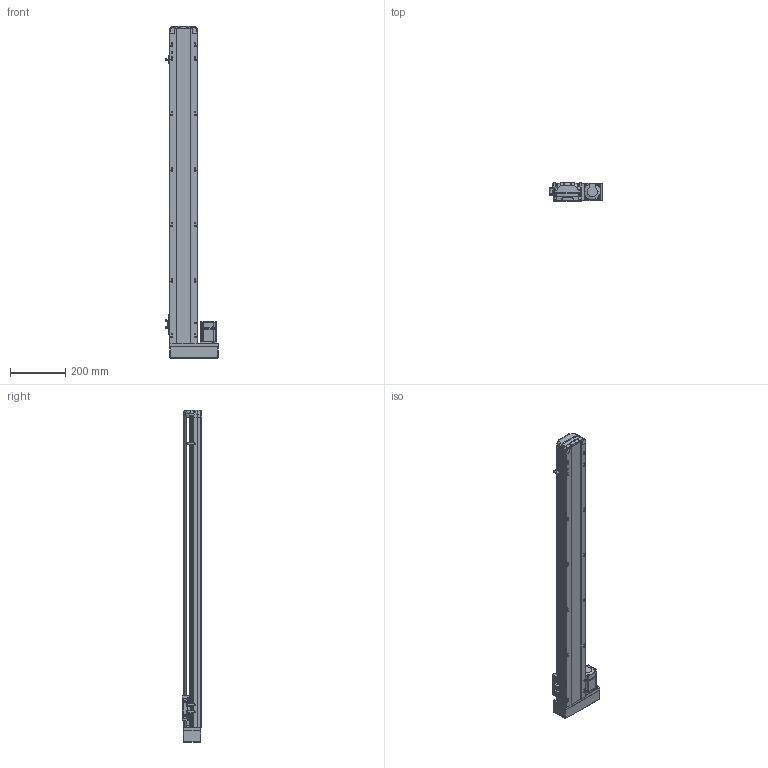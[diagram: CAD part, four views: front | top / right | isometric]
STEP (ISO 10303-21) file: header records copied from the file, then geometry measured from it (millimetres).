
FILE_DESCRIPTION (( 'STEP AP214' ), '1' );
FILE_NAME ('RTH10-XX-950-R-M20-C4.STEP', '2025-10-25T05:03:29', ( 'Microsoft' ), ( 'Microsoft' ), 'SwSTEP 2.0', 'SolidWorks 2018', '' );
FILE_SCHEMA (( 'AUTOMOTIVE_DESIGN' ));
Length unit declared in the file: millimetre
Products named in the file (10): N_OMRON EE-SX672 传感器^RTH10-XX-XX-R-M20-C4; N_RTH10-M-007P-奻裔^RTH10-XX-XX-R-M20-C4; N_200W-1^RTH10-XX-XX-R-M20-C4; RTH10-XX-950-R-M20-C4; N_RTH10-GY-001P^RTH10-XX-XX-R-M20-C4; N_RTH10-GY-004-賑釱^RTH10-XX-XX-R-M20-C4; N_RTH10-L-008萇儂啣^RTH10-XX-XX-R-M20-C4; N_RTH13-L-012覜茼え俋离^RTH10-XX-XX-R-M20-C4; N_RTH10-L-018-裔赽^RTH10-XX-XX-R-M20-C4; N_RTH10-M-011P-臏倰第菁釱^RTH10-XX-XX-R-M20-C4
Assembly tree (11 placements, depth 2):
  RTH10-XX-950-R-M20-C4
    N_RTH10-M-011P-臏倰第菁釱^RTH10-XX-XX-R-M20-C4
    N_RTH13-L-012覜茼え俋离^RTH10-XX-XX-R-M20-C4
    N_OMRON EE-SX672 传感器^RTH10-XX-XX-R-M20-C4  x3
    N_200W-1^RTH10-XX-XX-R-M20-C4
    N_RTH10-M-007P-奻裔^RTH10-XX-XX-R-M20-C4
    N_RTH10-L-008萇儂啣^RTH10-XX-XX-R-M20-C4
    N_RTH10-L-018-裔赽^RTH10-XX-XX-R-M20-C4
    N_RTH10-GY-004-賑釱^RTH10-XX-XX-R-M20-C4
    N_RTH10-GY-001P^RTH10-XX-XX-R-M20-C4
Bounding box: 190 x 70 x 1197.31 mm (x, y, z)
Volume: 5161312.5 mm3; surface area: 776880.1 mm2
Topology: 10 solids, 12 shells, 2016 faces, 5641 edges, 3705 vertices
Faces by surface type: plane 991, cylinder 518, bspline 472, cone 29, sphere 4, torus 2
Entity records: 61135 total; most frequent: CARTESIAN_POINT 23797, ORIENTED_EDGE 8354, DIRECTION 6515, EDGE_CURVE 4183, VERTEX_POINT 2749, VECTOR 2221, LINE 2221, AXIS2_PLACEMENT_3D 2147
